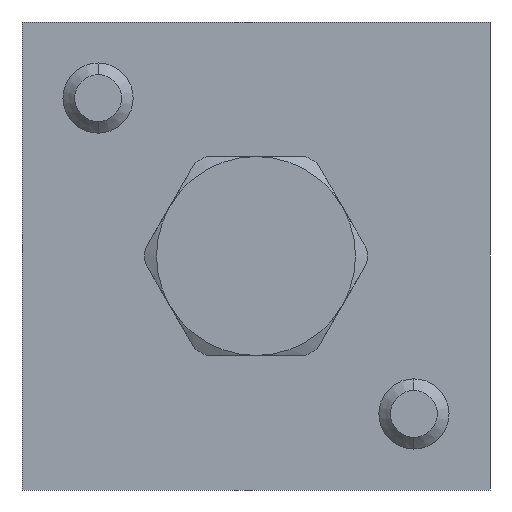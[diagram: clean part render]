
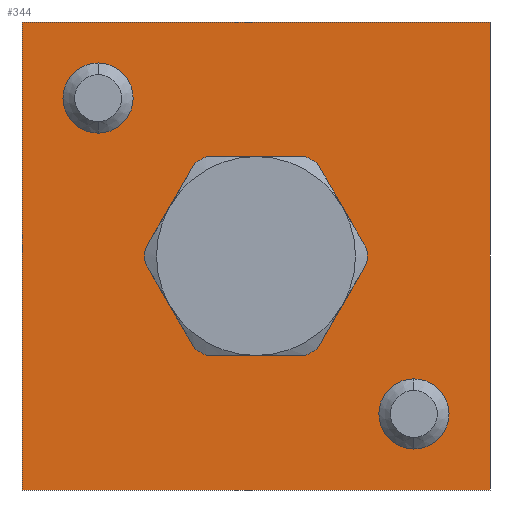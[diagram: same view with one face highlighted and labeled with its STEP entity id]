
A CAD part, left-side view. The second image highlights one B-rep face of the part: STEP entity #344.
In plain terms, the highlighted planar face has unit normal (-1, 0, 0).
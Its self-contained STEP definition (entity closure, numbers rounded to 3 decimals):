
#62 = VERTEX_POINT ( 'NONE', #1164 ) ;
#63 = VERTEX_POINT ( 'NONE', #1163 ) ;
#65 = EDGE_CURVE ( 'NONE', #62, #63, #1221, .T. ) ;
#317 = EDGE_CURVE ( 'NONE', #318, #319, #1663, .T. ) ;
#318 = VERTEX_POINT ( 'NONE', #1658 ) ;
#319 = VERTEX_POINT ( 'NONE', #1657 ) ;
#344 = ADVANCED_FACE ( 'NONE', ( #1672, #1671, #1670 ), #1669, .F. ) ;
#345 = EDGE_LOOP ( 'NONE', ( #346, #347 ) ) ;
#346 = ORIENTED_EDGE ( 'NONE', *, *, #65, .F. ) ;
#347 = ORIENTED_EDGE ( 'NONE', *, *, #402, .F. ) ;
#389 = ORIENTED_EDGE ( 'NONE', *, *, #317, .F. ) ;
#390 = ORIENTED_EDGE ( 'NONE', *, *, #391, .F. ) ;
#391 = EDGE_CURVE ( 'NONE', #319, #318, #1760, .T. ) ;
#402 = EDGE_CURVE ( 'NONE', #63, #62, #1793, .T. ) ;
#403 = EDGE_LOOP ( 'NONE', ( #404, #408, #411, #414 ) ) ;
#404 = ORIENTED_EDGE ( 'NONE', *, *, #405, .T. ) ;
#405 = EDGE_CURVE ( 'NONE', #406, #407, #1789, .T. ) ;
#406 = VERTEX_POINT ( 'NONE', #1849 ) ;
#407 = VERTEX_POINT ( 'NONE', #1848 ) ;
#408 = ORIENTED_EDGE ( 'NONE', *, *, #409, .F. ) ;
#409 = EDGE_CURVE ( 'NONE', #410, #407, #1847, .T. ) ;
#410 = VERTEX_POINT ( 'NONE', #1843 ) ;
#411 = ORIENTED_EDGE ( 'NONE', *, *, #412, .F. ) ;
#412 = EDGE_CURVE ( 'NONE', #413, #410, #1842, .T. ) ;
#413 = VERTEX_POINT ( 'NONE', #1838 ) ;
#414 = ORIENTED_EDGE ( 'NONE', *, *, #415, .T. ) ;
#415 = EDGE_CURVE ( 'NONE', #413, #406, #1837, .T. ) ;
#416 = EDGE_LOOP ( 'NONE', ( #389, #390 ) ) ;
#1163 = CARTESIAN_POINT ( 'NONE',  ( 0., -33.5, -16.5 ) ) ;
#1164 = CARTESIAN_POINT ( 'NONE',  ( 0., -33.5, -10.5 ) ) ;
#1217 = DIRECTION ( 'NONE',  ( 0., 0., -1. ) ) ;
#1218 = DIRECTION ( 'NONE',  ( -1., 0., 0. ) ) ;
#1219 = CARTESIAN_POINT ( 'NONE',  ( 0., -33.5, -13.5 ) ) ;
#1220 = AXIS2_PLACEMENT_3D ( 'NONE', #1219, #1218, #1217 ) ;
#1221 = CIRCLE ( 'NONE', #1220, 3. ) ;
#1657 = CARTESIAN_POINT ( 'NONE',  ( 0., -6.5, 10.5 ) ) ;
#1658 = CARTESIAN_POINT ( 'NONE',  ( 0., -6.5, 16.5 ) ) ;
#1659 = DIRECTION ( 'NONE',  ( 0., 0., -1. ) ) ;
#1660 = DIRECTION ( 'NONE',  ( -1., 0., 0. ) ) ;
#1661 = CARTESIAN_POINT ( 'NONE',  ( 0., -6.5, 13.5 ) ) ;
#1662 = AXIS2_PLACEMENT_3D ( 'NONE', #1661, #1660, #1659 ) ;
#1663 = CIRCLE ( 'NONE', #1662, 3. ) ;
#1668 = AXIS2_PLACEMENT_3D ( 'NONE', #1728, #1727, #1726 ) ;
#1669 = PLANE ( 'NONE',  #1668 ) ;
#1670 = FACE_BOUND ( 'NONE', #416, .T. ) ;
#1671 = FACE_OUTER_BOUND ( 'NONE', #403, .T. ) ;
#1672 = FACE_BOUND ( 'NONE', #345, .T. ) ;
#1726 = DIRECTION ( 'NONE',  ( 0., 0., -1. ) ) ;
#1727 = DIRECTION ( 'NONE',  ( 1., 0., 0. ) ) ;
#1728 = CARTESIAN_POINT ( 'NONE',  ( 0., -40., 20. ) ) ;
#1756 = DIRECTION ( 'NONE',  ( 0., 0., -1. ) ) ;
#1757 = DIRECTION ( 'NONE',  ( -1., 0., 0. ) ) ;
#1758 = CARTESIAN_POINT ( 'NONE',  ( 0., -6.5, 13.5 ) ) ;
#1759 = AXIS2_PLACEMENT_3D ( 'NONE', #1758, #1757, #1756 ) ;
#1760 = CIRCLE ( 'NONE', #1759, 3. ) ;
#1788 = CARTESIAN_POINT ( 'NONE',  ( 0., 0., 20. ) ) ;
#1789 = LINE ( 'NONE', #1788, #1851 ) ;
#1790 = DIRECTION ( 'NONE',  ( 0., 0., -1. ) ) ;
#1791 = DIRECTION ( 'NONE',  ( -1., 0., 0. ) ) ;
#1792 = AXIS2_PLACEMENT_3D ( 'NONE', #1797, #1791, #1790 ) ;
#1793 = CIRCLE ( 'NONE', #1792, 3. ) ;
#1797 = CARTESIAN_POINT ( 'NONE',  ( 0., -33.5, -13.5 ) ) ;
#1834 = DIRECTION ( 'NONE',  ( 0., 1., 0. ) ) ;
#1835 = VECTOR ( 'NONE', #1834, 1000. ) ;
#1836 = CARTESIAN_POINT ( 'NONE',  ( 0., -40., 20. ) ) ;
#1837 = LINE ( 'NONE', #1836, #1835 ) ;
#1838 = CARTESIAN_POINT ( 'NONE',  ( 0., -40., 20. ) ) ;
#1839 = DIRECTION ( 'NONE',  ( 0., 0., -1. ) ) ;
#1840 = VECTOR ( 'NONE', #1839, 1000. ) ;
#1841 = CARTESIAN_POINT ( 'NONE',  ( 0., -40., 20. ) ) ;
#1842 = LINE ( 'NONE', #1841, #1840 ) ;
#1843 = CARTESIAN_POINT ( 'NONE',  ( 0., -40., -20. ) ) ;
#1844 = DIRECTION ( 'NONE',  ( 0., 1., 0. ) ) ;
#1845 = VECTOR ( 'NONE', #1844, 1000. ) ;
#1846 = CARTESIAN_POINT ( 'NONE',  ( 0., -40., -20. ) ) ;
#1847 = LINE ( 'NONE', #1846, #1845 ) ;
#1848 = CARTESIAN_POINT ( 'NONE',  ( 0., 0., -20. ) ) ;
#1849 = CARTESIAN_POINT ( 'NONE',  ( 0., 0., 20. ) ) ;
#1850 = DIRECTION ( 'NONE',  ( 0., 0., -1. ) ) ;
#1851 = VECTOR ( 'NONE', #1850, 1000. ) ;
